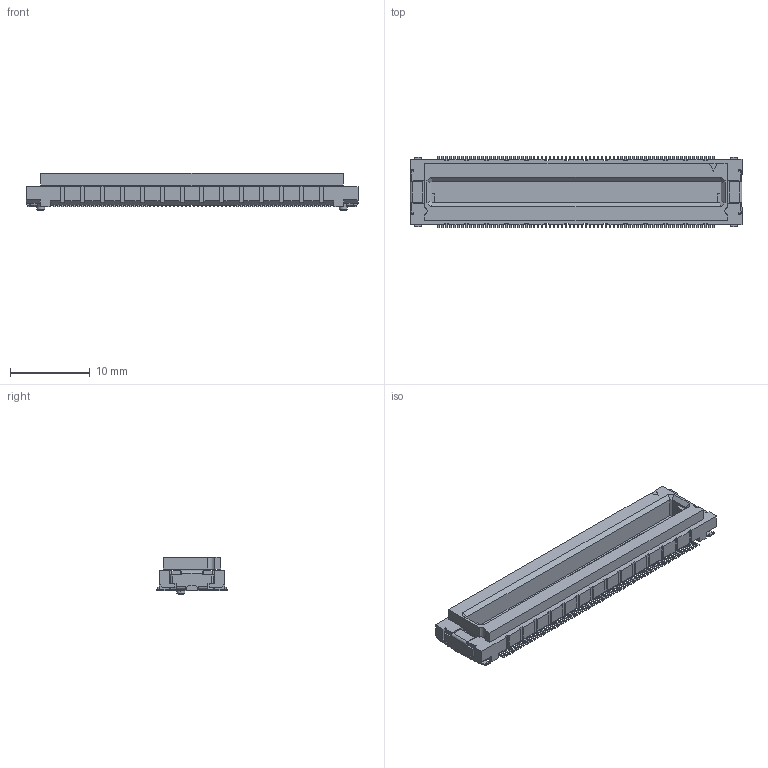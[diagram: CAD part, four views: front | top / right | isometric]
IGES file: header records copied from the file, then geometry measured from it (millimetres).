
Start section: Elysium IGES Interface
Global section: file name: 130HG:\その他\DY関連\CAD\（作り直し）Webリニューアル対応\DY01-XXXS     _(STEP／IGES形式_回覧No.56-36-0003)\①IGES\P39563_DY01-140S.igs; native system: Creo Elements/Direct Modeling 19.0F  14-Feb-2017; preprocessor: Creo Element/Direct IGES_3D V2.2; author: Unknown; organization: Unknown; date: 20170810.142710; units: millimetre
Bounding box: 41.7 x 9 x 4.65 mm (x, y, z)
Volume: 869.3 mm3; surface area: 1881.7 mm2
Topology: 1 solids, 1 shells, 4171 faces, 11639 edges, 7754 vertices
Faces by surface type: bspline 4171
